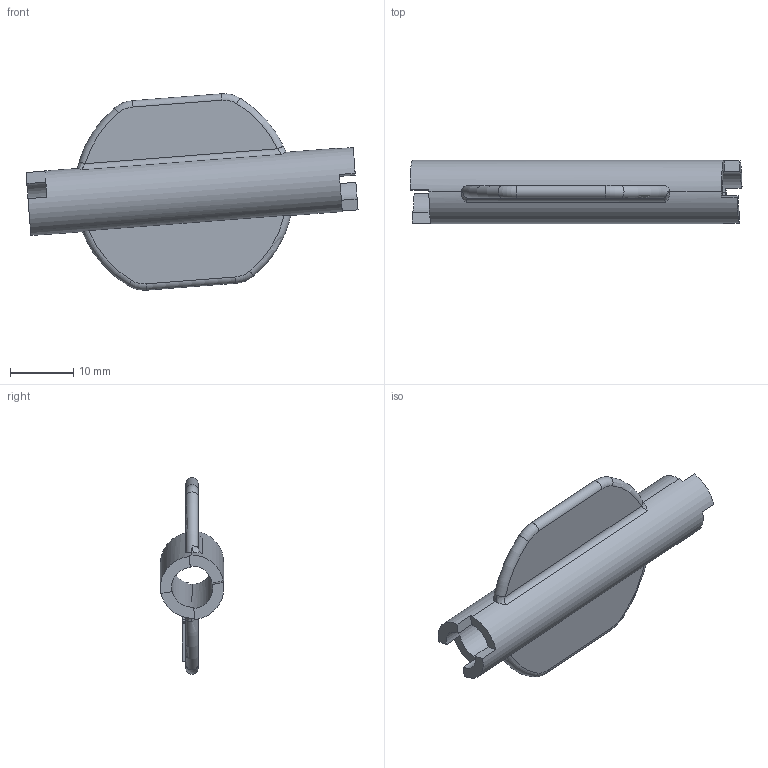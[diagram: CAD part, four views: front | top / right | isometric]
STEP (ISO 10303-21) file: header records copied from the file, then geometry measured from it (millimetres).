
FILE_DESCRIPTION((''),'2;1');
FILE_NAME('0000237110_PRT','2025-11-12T18:33:27',('Wyndorps'),(''),'CREO PARAMETRIC BY PTC INC, 2025010','CREO PARAMETRIC BY PTC INC, 2025010','');
FILE_SCHEMA(('CONFIG_CONTROL_DESIGN'));
Length unit declared in the file: millimetre
Products named in the file (1): 0000237110_PRT
Bounding box: 52.36 x 10 x 30.96 mm (x, y, z)
Volume: 3292.1 mm3; surface area: 3751.6 mm2
Topology: 1 solids, 1 shells, 116 faces, 319 edges, 210 vertices
Faces by surface type: plane 56, extrusion 36, cylinder 12, torus 8, bspline 4
Entity records: 4240 total; most frequent: CARTESIAN_POINT 1388, ORIENTED_EDGE 638, DIRECTION 471, EDGE_CURVE 319, VERTEX_POINT 210, VECTOR 207, LINE 171, AXIS2_PLACEMENT_3D 132
